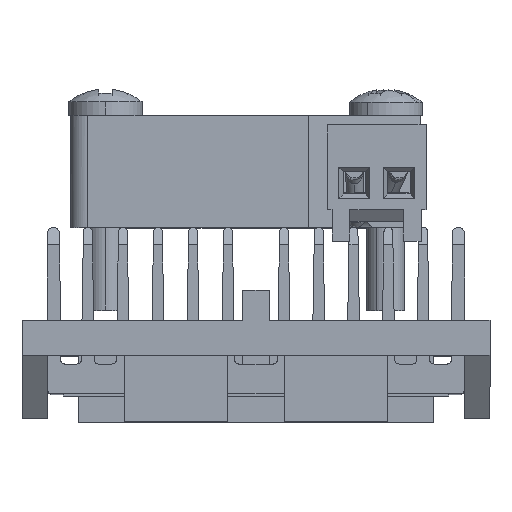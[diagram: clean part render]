
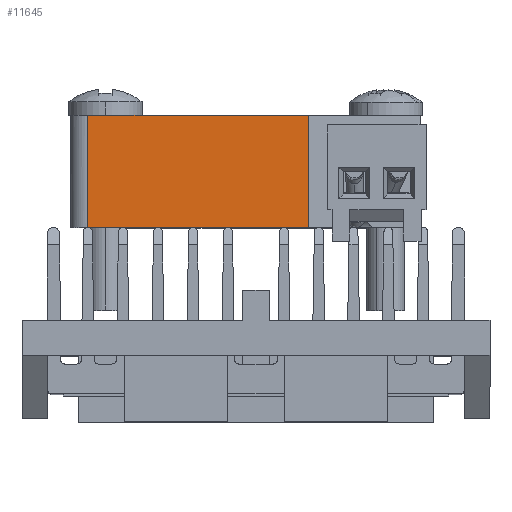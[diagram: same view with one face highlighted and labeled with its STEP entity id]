
A CAD part, top view. The second image highlights one B-rep face of the part: STEP entity #11645.
In plain terms, the highlighted planar face has unit normal (0, 0, 1).
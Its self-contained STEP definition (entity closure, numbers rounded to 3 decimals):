
#548 = ORIENTED_EDGE ( 'NONE', *, *, #6689, .F. ) ;
#1352 = LINE ( 'NONE', #8174, #8478 ) ;
#1607 = DIRECTION ( 'NONE',  ( -1., 0., 0. ) ) ;
#2099 = EDGE_LOOP ( 'NONE', ( #6917, #548, #2677, #9250 ) ) ;
#2460 = VERTEX_POINT ( 'NONE', #9630 ) ;
#2677 = ORIENTED_EDGE ( 'NONE', *, *, #17643, .F. ) ;
#3048 = FACE_OUTER_BOUND ( 'NONE', #2099, .T. ) ;
#6689 = EDGE_CURVE ( 'NONE', #18863, #15353, #16614, .T. ) ;
#6694 = PLANE ( 'NONE',  #12509 ) ;
#6917 = ORIENTED_EDGE ( 'NONE', *, *, #12864, .F. ) ;
#7181 = CARTESIAN_POINT ( 'NONE',  ( -1.1, 24.541, 27.696 ) ) ;
#7955 = DIRECTION ( 'NONE',  ( 1., 0., 0. ) ) ;
#8174 = CARTESIAN_POINT ( 'NONE',  ( 17.9, 24.541, 27.696 ) ) ;
#8478 = VECTOR ( 'NONE', #7955, 1000. ) ;
#8657 = VECTOR ( 'NONE', #1607, 1000. ) ;
#9250 = ORIENTED_EDGE ( 'NONE', *, *, #11877, .F. ) ;
#9630 = CARTESIAN_POINT ( 'NONE',  ( 11.5, 18.141, 27.696 ) ) ;
#10226 = DIRECTION ( 'NONE',  ( 0., 1., 0. ) ) ;
#10404 = VECTOR ( 'NONE', #14278, 1000. ) ;
#10826 = VERTEX_POINT ( 'NONE', #18256 ) ;
#11143 = DIRECTION ( 'NONE',  ( 0., 0., -1. ) ) ;
#11434 = LINE ( 'NONE', #16430, #8657 ) ;
#11645 = ADVANCED_FACE ( 'NONE', ( #3048 ), #6694, .F. ) ;
#11877 = EDGE_CURVE ( 'NONE', #10826, #2460, #18775, .T. ) ;
#12488 = CARTESIAN_POINT ( 'NONE',  ( -1.1, 24.641, 27.696 ) ) ;
#12509 = AXIS2_PLACEMENT_3D ( 'NONE', #14838, #11143, #16124 ) ;
#12864 = EDGE_CURVE ( 'NONE', #15353, #10826, #1352, .T. ) ;
#14278 = DIRECTION ( 'NONE',  ( 0., -1., 0. ) ) ;
#14838 = CARTESIAN_POINT ( 'NONE',  ( 17.9, 24.641, 27.696 ) ) ;
#15353 = VERTEX_POINT ( 'NONE', #7181 ) ;
#16124 = DIRECTION ( 'NONE',  ( 0., -1., 0. ) ) ;
#16430 = CARTESIAN_POINT ( 'NONE',  ( 7.9, 18.141, 27.696 ) ) ;
#16528 = VECTOR ( 'NONE', #10226, 1000. ) ;
#16614 = LINE ( 'NONE', #12488, #16528 ) ;
#17643 = EDGE_CURVE ( 'NONE', #2460, #18863, #11434, .T. ) ;
#18256 = CARTESIAN_POINT ( 'NONE',  ( 11.5, 24.541, 27.696 ) ) ;
#18775 = LINE ( 'NONE', #20847, #10404 ) ;
#18863 = VERTEX_POINT ( 'NONE', #19943 ) ;
#19943 = CARTESIAN_POINT ( 'NONE',  ( -1.1, 18.141, 27.696 ) ) ;
#20847 = CARTESIAN_POINT ( 'NONE',  ( 11.5, 24.641, 27.696 ) ) ;
